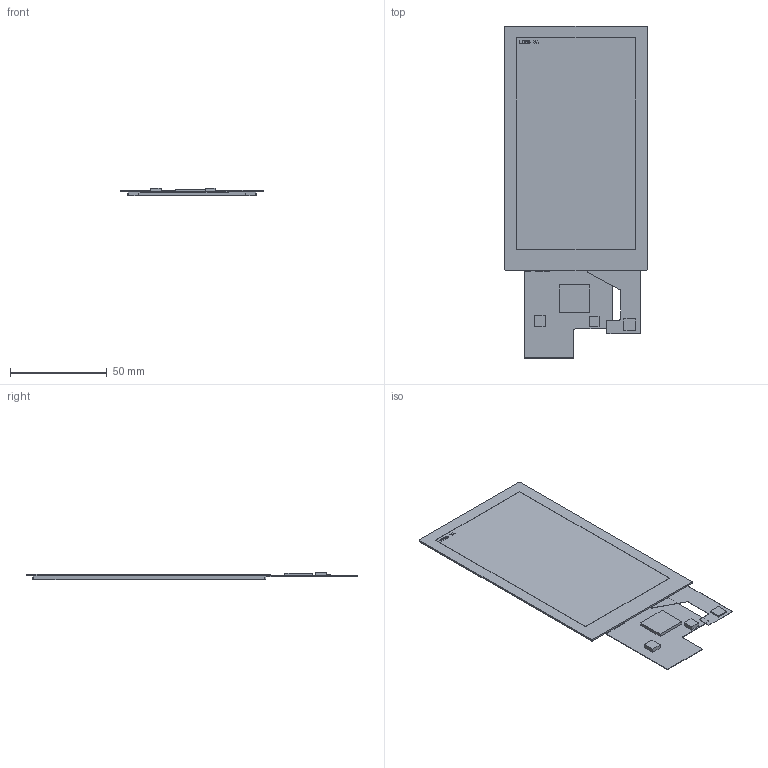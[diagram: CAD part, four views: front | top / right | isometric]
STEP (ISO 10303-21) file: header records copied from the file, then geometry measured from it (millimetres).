
FILE_DESCRIPTION((''),'2;1');
FILE_NAME('DMG85480F050_01WTC','2021-12-01T',('Administrator'),(''),'PRO/ENGINEER BY PARAMETRIC TECHNOLOGY CORPORATION, 2014320','PRO/ENGINEER BY PARAMETRIC TECHNOLOGY CORPORATION, 2014320','');
FILE_SCHEMA(('CONFIG_CONTROL_DESIGN','SHAPE_APPEARANCE_LAYERS_GROUPS'));
Length unit declared in the file: millimetre
Products named in the file (1): DMG85480F050_01WTC
Bounding box: 73.33 x 171.17 x 4.06 mm (x, y, z)
Volume: 24764.7 mm3; surface area: 39473.1 mm2
Topology: 1 solids, 4 shells, 251 faces, 681 edges, 454 vertices
Faces by surface type: plane 234, cylinder 17
Entity records: 7905 total; most frequent: CARTESIAN_POINT 1386, ORIENTED_EDGE 1362, DIRECTION 1217, EDGE_CURVE 681, VECTOR 647, LINE 647, VERTEX_POINT 454, AXIS2_PLACEMENT_3D 285
